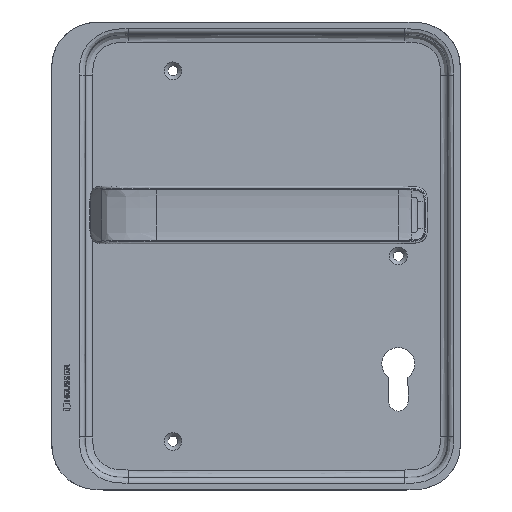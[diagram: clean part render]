
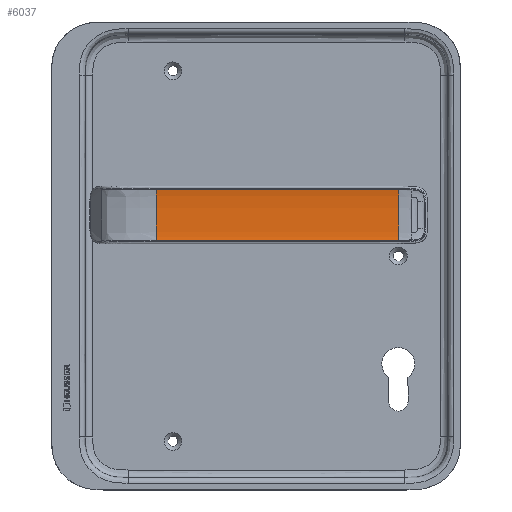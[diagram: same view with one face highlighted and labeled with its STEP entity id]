
A CAD part, top view. The second image highlights one B-rep face of the part: STEP entity #6037.
In plain terms, the highlighted free-form (B-spline) face has degree [1, 5] with [2, 6] control points.
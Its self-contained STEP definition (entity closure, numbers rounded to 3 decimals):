
#149=B_SPLINE_SURFACE_WITH_KNOTS('',1,5,((#18056,#18057,#18058,#18059,#18060,
#18061),(#18062,#18063,#18064,#18065,#18066,#18067)),.UNSPECIFIED.,.F.,
 .F.,.F.,(2,2),(6,6),(0.,1.),(0.,1.),.UNSPECIFIED.);
#1254=B_SPLINE_CURVE_WITH_KNOTS('',3,(#14645,#14646,#14647,#14648,#14649,
#14650,#14651,#14652,#14653,#14654,#14655,#14656,#14657,#14658,#14659,#14660,
#14661,#14662,#14663,#14664,#14665,#14666,#14667,#14668,#14669,#14670,#14671,
#14672),.UNSPECIFIED.,.F.,.F.,(4,3,3,3,3,3,3,3,3,4),(3.015,3.808,
4.601,6.186,7.772,9.358,10.943,
12.529,14.115,15.703),.UNSPECIFIED.);
#1260=B_SPLINE_CURVE_WITH_KNOTS('',5,(#14747,#14748,#14749,#14750,#14751,
#14752,#14753,#14754,#14755,#14756,#14757,#14758,#14759,#14760,#14761),
 .UNSPECIFIED.,.F.,.F.,(6,1,1,1,1,1,1,1,1,1,6),(20.644,20.647,
22.233,23.819,25.404,26.99,28.576,
30.161,31.747,32.54,33.333),
 .UNSPECIFIED.);
#1315=B_SPLINE_CURVE_WITH_KNOTS('',5,(#17412,#17413,#17414,#17415,#17416,
#17417),.UNSPECIFIED.,.F.,.F.,(6,6),(0.014,0.986),
 .UNSPECIFIED.);
#1332=B_SPLINE_CURVE_WITH_KNOTS('',5,(#18068,#18069,#18070,#18071,#18072,
#18073),.UNSPECIFIED.,.F.,.F.,(6,6),(0.014,0.986),
 .UNSPECIFIED.);
#1867=FACE_OUTER_BOUND('',#2260,.T.);
#2260=EDGE_LOOP('',(#5287,#5288,#5289,#5290));
#2843=VERTEX_POINT('',#14597);
#2844=VERTEX_POINT('',#14644);
#2849=VERTEX_POINT('',#14731);
#2850=VERTEX_POINT('',#14746);
#3612=EDGE_CURVE('',#2843,#2844,#1254,.T.);
#3618=EDGE_CURVE('',#2849,#2850,#1260,.T.);
#3688=EDGE_CURVE('',#2850,#2843,#1315,.T.);
#3724=EDGE_CURVE('',#2849,#2844,#1332,.T.);
#5287=ORIENTED_EDGE('',*,*,#3688,.F.);
#5288=ORIENTED_EDGE('',*,*,#3618,.F.);
#5289=ORIENTED_EDGE('',*,*,#3724,.T.);
#5290=ORIENTED_EDGE('',*,*,#3612,.F.);
#6037=ADVANCED_FACE('',(#1867),#149,.T.);
#14597=CARTESIAN_POINT('',(194.136,25.017,10.442));
#14644=CARTESIAN_POINT('',(320.987,25.017,10.442));
#14645=CARTESIAN_POINT('Ctrl Pts',(194.136,25.017,10.442));
#14646=CARTESIAN_POINT('Ctrl Pts',(196.779,25.018,10.442));
#14647=CARTESIAN_POINT('Ctrl Pts',(199.421,25.017,10.442));
#14648=CARTESIAN_POINT('Ctrl Pts',(202.064,25.017,10.442));
#14649=CARTESIAN_POINT('Ctrl Pts',(204.706,25.017,10.442));
#14650=CARTESIAN_POINT('Ctrl Pts',(207.348,25.017,10.442));
#14651=CARTESIAN_POINT('Ctrl Pts',(209.991,25.017,10.442));
#14652=CARTESIAN_POINT('Ctrl Pts',(215.277,25.017,10.442));
#14653=CARTESIAN_POINT('Ctrl Pts',(220.563,25.017,10.442));
#14654=CARTESIAN_POINT('Ctrl Pts',(225.849,25.017,10.442));
#14655=CARTESIAN_POINT('Ctrl Pts',(231.135,25.017,10.442));
#14656=CARTESIAN_POINT('Ctrl Pts',(236.42,25.017,10.442));
#14657=CARTESIAN_POINT('Ctrl Pts',(241.704,25.017,10.442));
#14658=CARTESIAN_POINT('Ctrl Pts',(246.989,25.017,10.442));
#14659=CARTESIAN_POINT('Ctrl Pts',(252.274,25.017,10.442));
#14660=CARTESIAN_POINT('Ctrl Pts',(257.56,25.017,10.442));
#14661=CARTESIAN_POINT('Ctrl Pts',(262.846,25.017,10.442));
#14662=CARTESIAN_POINT('Ctrl Pts',(268.134,25.017,10.442));
#14663=CARTESIAN_POINT('Ctrl Pts',(273.42,25.017,10.442));
#14664=CARTESIAN_POINT('Ctrl Pts',(278.706,25.017,10.442));
#14665=CARTESIAN_POINT('Ctrl Pts',(283.989,25.017,10.442));
#14666=CARTESIAN_POINT('Ctrl Pts',(289.272,25.017,10.442));
#14667=CARTESIAN_POINT('Ctrl Pts',(294.555,25.017,10.442));
#14668=CARTESIAN_POINT('Ctrl Pts',(299.841,25.017,10.442));
#14669=CARTESIAN_POINT('Ctrl Pts',(305.132,25.017,10.442));
#14670=CARTESIAN_POINT('Ctrl Pts',(310.433,25.017,10.442));
#14671=CARTESIAN_POINT('Ctrl Pts',(315.748,25.018,10.442));
#14672=CARTESIAN_POINT('Ctrl Pts',(320.987,25.017,10.442));
#14731=CARTESIAN_POINT('',(320.995,-1.494,10.442));
#14746=CARTESIAN_POINT('',(194.135,-1.495,10.442));
#14747=CARTESIAN_POINT('Ctrl Pts',(320.995,-1.494,10.442));
#14748=CARTESIAN_POINT('Ctrl Pts',(320.988,-1.494,10.442));
#14749=CARTESIAN_POINT('Ctrl Pts',(317.843,-1.495,10.442));
#14750=CARTESIAN_POINT('Ctrl Pts',(311.507,-1.494,10.442));
#14751=CARTESIAN_POINT('Ctrl Pts',(301.952,-1.495,10.442));
#14752=CARTESIAN_POINT('Ctrl Pts',(289.274,-1.495,10.442));
#14753=CARTESIAN_POINT('Ctrl Pts',(273.424,-1.495,10.442));
#14754=CARTESIAN_POINT('Ctrl Pts',(257.557,-1.495,10.442));
#14755=CARTESIAN_POINT('Ctrl Pts',(241.704,-1.495,10.442));
#14756=CARTESIAN_POINT('Ctrl Pts',(227.437,-1.495,10.442));
#14757=CARTESIAN_POINT('Ctrl Pts',(214.747,-1.495,10.441));
#14758=CARTESIAN_POINT('Ctrl Pts',(205.233,-1.495,10.442));
#14759=CARTESIAN_POINT('Ctrl Pts',(198.893,-1.495,10.441));
#14760=CARTESIAN_POINT('Ctrl Pts',(195.721,-1.495,10.442));
#14761=CARTESIAN_POINT('Ctrl Pts',(194.135,-1.495,10.442));
#17412=CARTESIAN_POINT('Ctrl Pts',(194.135,-1.495,10.442));
#17413=CARTESIAN_POINT('Ctrl Pts',(194.135,0.653,9.825));
#17414=CARTESIAN_POINT('Ctrl Pts',(194.135,7.533,9.517));
#17415=CARTESIAN_POINT('Ctrl Pts',(194.135,15.989,9.517));
#17416=CARTESIAN_POINT('Ctrl Pts',(194.135,22.869,9.825));
#17417=CARTESIAN_POINT('Ctrl Pts',(194.135,25.017,10.442));
#18056=CARTESIAN_POINT('Ctrl Pts',(194.135,-1.639,10.486));
#18057=CARTESIAN_POINT('Ctrl Pts',(194.135,0.288,9.834));
#18058=CARTESIAN_POINT('Ctrl Pts',(194.135,7.364,9.508));
#18059=CARTESIAN_POINT('Ctrl Pts',(194.135,16.158,9.508));
#18060=CARTESIAN_POINT('Ctrl Pts',(194.135,23.234,9.834));
#18061=CARTESIAN_POINT('Ctrl Pts',(194.135,25.161,10.486));
#18062=CARTESIAN_POINT('Ctrl Pts',(321.003,-1.639,10.487));
#18063=CARTESIAN_POINT('Ctrl Pts',(321.005,0.288,9.835));
#18064=CARTESIAN_POINT('Ctrl Pts',(321.006,7.364,9.509));
#18065=CARTESIAN_POINT('Ctrl Pts',(321.006,16.158,9.509));
#18066=CARTESIAN_POINT('Ctrl Pts',(321.005,23.234,9.835));
#18067=CARTESIAN_POINT('Ctrl Pts',(321.003,25.161,10.487));
#18068=CARTESIAN_POINT('Ctrl Pts',(320.987,-1.494,10.442));
#18069=CARTESIAN_POINT('Ctrl Pts',(320.989,0.654,9.826));
#18070=CARTESIAN_POINT('Ctrl Pts',(320.99,7.533,9.518));
#18071=CARTESIAN_POINT('Ctrl Pts',(320.99,15.989,9.518));
#18072=CARTESIAN_POINT('Ctrl Pts',(320.989,22.868,9.826));
#18073=CARTESIAN_POINT('Ctrl Pts',(320.987,25.017,10.442));
